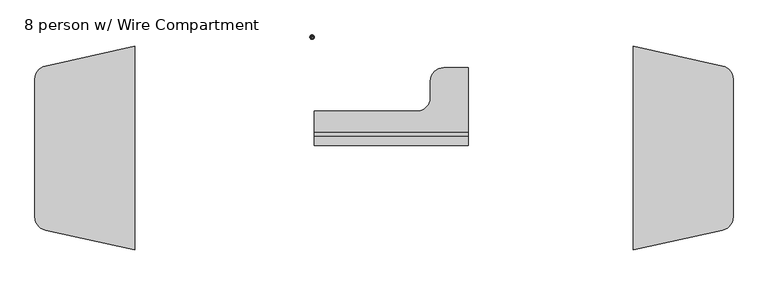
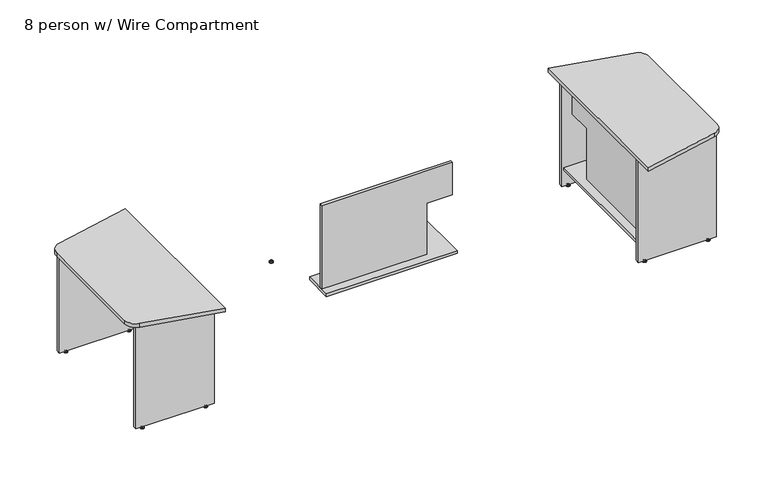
"""IFC4 building model written with IfcOpenShell, lengths in millimetres: furniture geometry, Nova Solutions - Collaboration Table - Boat_6-8 person : 8 person w/ Wire Compartment."""

from ifc_helpers import new_model, si_unit, point, frame, frame_2d, origin, place, context, project, spatial, polyline, circle_curve, ellipse_curve, trimmed, segment, composite_curve, outline, extrude, source, transform, mapped, element, save
from ifc_brep_helpers import plane_surface, cylinder_surface, revolved_surface, advanced_brep


def furniture_8_person_w_wire_compartment_c8a4825b(model_context):
    return source(origin(), model_context, "Body", "SolidModel", [
        advanced_brep(
        [(-2383.9628323, 449.6276506, 11.1125), (-2383.9628323, 442.95, 11.1125), (-2383.9628323, 436.2723494, 11.1125), (-2383.9628323, 449.6276506, 9.525), (-2383.9628323, 436.2723494, 9.525), (-2383.9628323, 454.8355135, 4.7748687), (-2383.9628323, 431.0644865, 4.7748687), (-2383.9628323, 455.6966506, 3.989419), (-2383.9628323, 430.2033494, 3.989419), (-2383.9628323, 455.6966506, 3.175), (-2383.9628323, 430.2033494, 3.175), (-2383.9628323, 454.8459119, 0.0), (-2383.9628323, 431.0540881, 0.0), (-2383.9628323, 442.95, 0.0)],
        [
            (0, 1),
            (1, 2),
            (2, 0, circle_curve(frame((-2383.9628323, 442.95, 11.1125), z_axis=(0.0, 0.0, 1.0), x_axis=(0.0, -1.0, 0.0)), 6.6776506)),
            (0, 2, circle_curve(frame((-2383.9628323, 442.95, 11.1125), z_axis=(0.0, 0.0, 1.0), x_axis=(0.0, -1.0, 0.0)), 6.6776506)),
            (3, 0),
            (2, 4),
            (4, 3, circle_curve(frame((-2383.9628323, 442.95, 9.525), z_axis=(0.0, 0.0, 1.0), x_axis=(0.0, -1.0, 0.0)), 6.6776506)),
            (3, 4, circle_curve(frame((-2383.9628323, 442.95, 9.525), z_axis=(0.0, 0.0, 1.0), x_axis=(0.0, -1.0, 0.0)), 6.6776506)),
            (5, 3, circle_curve(frame((-2383.9628323, 455.8820627, 11.1521822), z_axis=(-1.0, 0.0, 0.0), x_axis=(0.0, -1.0, 0.0)), 6.462615)),
            (4, 6, circle_curve(frame((-2383.9628323, 430.0179373, 11.1521822), z_axis=(-1.0, 0.0, 0.0), x_axis=(0.0, 1.0, 0.0)), 6.462615)),
            (6, 5, circle_curve(frame((-2383.9628323, 442.95, 4.7748687), z_axis=(0.0, 0.0, 1.0), x_axis=(0.0, -1.0, 0.0)), 11.8855135)),
            (5, 6, circle_curve(frame((-2383.9628323, 442.95, 4.7748687), z_axis=(0.0, 0.0, 1.0), x_axis=(0.0, -1.0, 0.0)), 11.8855135)),
            (7, 5, circle_curve(frame((-2383.9628323, 454.6624632, 3.7203591), z_axis=(1.0, 0.0, 0.0), x_axis=(0.0, -1.0, 0.0)), 1.0686145)),
            (6, 8, circle_curve(frame((-2383.9628323, 431.2375368, 3.7203591), z_axis=(1.0, 0.0, 0.0), x_axis=(0.0, 1.0, 0.0)), 1.0686145)),
            (8, 7, circle_curve(frame((-2383.9628323, 442.95, 3.989419), z_axis=(0.0, 0.0, 1.0), x_axis=(0.0, -1.0, 0.0)), 12.7466506)),
            (7, 8, circle_curve(frame((-2383.9628323, 442.95, 3.989419), z_axis=(0.0, 0.0, 1.0), x_axis=(0.0, -1.0, 0.0)), 12.7466506)),
            (9, 7),
            (8, 10),
            (10, 9, circle_curve(frame((-2383.9628323, 442.95, 3.175), z_axis=(0.0, 0.0, 1.0), x_axis=(0.0, -1.0, 0.0)), 12.7466506)),
            (9, 10, circle_curve(frame((-2383.9628323, 442.95, 3.175), z_axis=(0.0, 0.0, 1.0), x_axis=(0.0, -1.0, 0.0)), 12.7466506)),
            (11, 9),
            (10, 12),
            (12, 11, circle_curve(frame((-2383.9628323, 442.95, 0.0), z_axis=(0.0, 0.0, 1.0), x_axis=(0.0, -1.0, 0.0)), 11.8959119)),
            (11, 12, circle_curve(frame((-2383.9628323, 442.95, 0.0), z_axis=(0.0, 0.0, 1.0), x_axis=(0.0, -1.0, 0.0)), 11.8959119)),
            (13, 11),
            (12, 13),
        ],
        [
            plane_surface(frame((-2383.9628323, 442.95, 11.1125), z_axis=(0.0, 0.0, 1.0), x_axis=(0.0, -1.0, 0.0))),
            cylinder_surface(frame((-2383.9628323, 442.95, 43.2095994), z_axis=(0.0, 0.0, -1.0), x_axis=(0.0, -1.0, 0.0)), 6.6776506),
            revolved_surface(trimmed(ellipse_curve(frame((-2383.9628323, 430.0179373, 11.1521822), z_axis=(-1.0, 0.0, 0.0), x_axis=(0.0, 1.0, 0.0)), 6.462615, 6.462615), [point((-2383.9628323, 436.2723494, 9.525))], [point((-2383.9628323, 431.0644865, 4.7748687))], True, "CARTESIAN"), (-2383.9628323, 442.95, 43.2095994), (0.0, 0.0, -1.0)),
            revolved_surface(trimmed(ellipse_curve(frame((-2383.9628323, 431.2375368, 3.7203591), z_axis=(1.0, 0.0, 0.0), x_axis=(0.0, 1.0, 0.0)), 1.0686145, 1.0686145), [point((-2383.9628323, 431.0644865, 4.7748687))], [point((-2383.9628323, 430.2033494, 3.989419))], True, "CARTESIAN"), (-2383.9628323, 442.95, 43.2095994), (0.0, 0.0, -1.0)),
            cylinder_surface(frame((-2383.9628323, 442.95, 43.2095994), z_axis=(0.0, 0.0, -1.0), x_axis=(0.0, -1.0, 0.0)), 12.7466506),
            revolved_surface(polyline([(-2383.9628323, 430.2033494, 3.175), (-2383.9628323, 431.0540881, 0.0)]), (-2383.9628323, 442.95, 43.2095994), (0.0, 0.0, -1.0)),
            plane_surface(frame((-2383.9628323, 442.95, 0.0), z_axis=(0.0, 0.0, -1.0), x_axis=(0.0, -1.0, 0.0))),
        ],
        [
            (0, [[1, 2, 3]]),
            (0, [[-2, -1, 4]]),
            (1, [[5, -3, 6, 7]]),
            (1, [[-6, -4, -5, 8]]),
            (2, [[9, -7, 10, 11]]),
            (2, [[-10, -8, -9, 12]]),
            (3, [[13, -11, 14, 15]]),
            (3, [[-14, -12, -13, 16]]),
            (4, [[17, -15, 18, 19]]),
            (4, [[-18, -16, -17, 20]]),
            (5, [[21, -19, 22, 23]]),
            (5, [[-22, -20, -21, 24]]),
            (6, [[25, -23, 26]]),
            (6, [[-26, -24, -25]]),
        ],
    ),
        advanced_brep(
        [(-1959.6909573, 449.6276506, 11.1125), (-1959.6909573, 442.95, 11.1125), (-1959.6909573, 436.2723494, 11.1125), (-1959.6909573, 449.6276506, 9.525), (-1959.6909573, 436.2723494, 9.525), (-1959.6909573, 454.8355135, 4.7748687), (-1959.6909573, 431.0644865, 4.7748687), (-1959.6909573, 455.6966506, 3.989419), (-1959.6909573, 430.2033494, 3.989419), (-1959.6909573, 455.6966506, 3.175), (-1959.6909573, 430.2033494, 3.175), (-1959.6909573, 454.8459119, 0.0), (-1959.6909573, 431.0540881, 0.0), (-1959.6909573, 442.95, 0.0)],
        [
            (0, 1),
            (1, 2),
            (2, 0, circle_curve(frame((-1959.6909573, 442.95, 11.1125), z_axis=(0.0, 0.0, 1.0), x_axis=(0.0, -1.0, 0.0)), 6.6776506)),
            (0, 2, circle_curve(frame((-1959.6909573, 442.95, 11.1125), z_axis=(0.0, 0.0, 1.0), x_axis=(0.0, -1.0, 0.0)), 6.6776506)),
            (3, 0),
            (2, 4),
            (4, 3, circle_curve(frame((-1959.6909573, 442.95, 9.525), z_axis=(0.0, 0.0, 1.0), x_axis=(0.0, -1.0, 0.0)), 6.6776506)),
            (3, 4, circle_curve(frame((-1959.6909573, 442.95, 9.525), z_axis=(0.0, 0.0, 1.0), x_axis=(0.0, -1.0, 0.0)), 6.6776506)),
            (5, 3, circle_curve(frame((-1959.6909573, 455.8820627, 11.1521822), z_axis=(-1.0, 0.0, 0.0), x_axis=(0.0, -1.0, 0.0)), 6.462615)),
            (4, 6, circle_curve(frame((-1959.6909573, 430.0179373, 11.1521822), z_axis=(-1.0, 0.0, 0.0), x_axis=(0.0, 1.0, 0.0)), 6.462615)),
            (6, 5, circle_curve(frame((-1959.6909573, 442.95, 4.7748687), z_axis=(0.0, 0.0, 1.0), x_axis=(0.0, -1.0, 0.0)), 11.8855135)),
            (5, 6, circle_curve(frame((-1959.6909573, 442.95, 4.7748687), z_axis=(0.0, 0.0, 1.0), x_axis=(0.0, -1.0, 0.0)), 11.8855135)),
            (7, 5, circle_curve(frame((-1959.6909573, 454.6624632, 3.7203591), z_axis=(1.0, 0.0, 0.0), x_axis=(0.0, -1.0, 0.0)), 1.0686145)),
            (6, 8, circle_curve(frame((-1959.6909573, 431.2375368, 3.7203591), z_axis=(1.0, 0.0, 0.0), x_axis=(0.0, 1.0, 0.0)), 1.0686145)),
            (8, 7, circle_curve(frame((-1959.6909573, 442.95, 3.989419), z_axis=(0.0, 0.0, 1.0), x_axis=(0.0, -1.0, 0.0)), 12.7466506)),
            (7, 8, circle_curve(frame((-1959.6909573, 442.95, 3.989419), z_axis=(0.0, 0.0, 1.0), x_axis=(0.0, -1.0, 0.0)), 12.7466506)),
            (9, 7),
            (8, 10),
            (10, 9, circle_curve(frame((-1959.6909573, 442.95, 3.175), z_axis=(0.0, 0.0, 1.0), x_axis=(0.0, -1.0, 0.0)), 12.7466506)),
            (9, 10, circle_curve(frame((-1959.6909573, 442.95, 3.175), z_axis=(0.0, 0.0, 1.0), x_axis=(0.0, -1.0, 0.0)), 12.7466506)),
            (11, 9),
            (10, 12),
            (12, 11, circle_curve(frame((-1959.6909573, 442.95, 0.0), z_axis=(0.0, 0.0, 1.0), x_axis=(0.0, -1.0, 0.0)), 11.8959119)),
            (11, 12, circle_curve(frame((-1959.6909573, 442.95, 0.0), z_axis=(0.0, 0.0, 1.0), x_axis=(0.0, -1.0, 0.0)), 11.8959119)),
            (13, 11),
            (12, 13),
        ],
        [
            plane_surface(frame((-1959.6909573, 442.95, 11.1125), z_axis=(0.0, 0.0, 1.0), x_axis=(0.0, -1.0, 0.0))),
            cylinder_surface(frame((-1959.6909573, 442.95, 43.2095994), z_axis=(0.0, 0.0, -1.0), x_axis=(0.0, -1.0, 0.0)), 6.6776506),
            revolved_surface(trimmed(ellipse_curve(frame((-1959.6909573, 430.0179373, 11.1521822), z_axis=(-1.0, 0.0, 0.0), x_axis=(0.0, 1.0, 0.0)), 6.462615, 6.462615), [point((-1959.6909573, 436.2723494, 9.525))], [point((-1959.6909573, 431.0644865, 4.7748687))], True, "CARTESIAN"), (-1959.6909573, 442.95, 43.2095994), (0.0, 0.0, -1.0)),
            revolved_surface(trimmed(ellipse_curve(frame((-1959.6909573, 431.2375368, 3.7203591), z_axis=(1.0, 0.0, 0.0), x_axis=(0.0, 1.0, 0.0)), 1.0686145, 1.0686145), [point((-1959.6909573, 431.0644865, 4.7748687))], [point((-1959.6909573, 430.2033494, 3.989419))], True, "CARTESIAN"), (-1959.6909573, 442.95, 43.2095994), (0.0, 0.0, -1.0)),
            cylinder_surface(frame((-1959.6909573, 442.95, 43.2095994), z_axis=(0.0, 0.0, -1.0), x_axis=(0.0, -1.0, 0.0)), 12.7466506),
            revolved_surface(polyline([(-1959.6909573, 430.2033494, 3.175), (-1959.6909573, 431.0540881, 0.0)]), (-1959.6909573, 442.95, 43.2095994), (0.0, 0.0, -1.0)),
            plane_surface(frame((-1959.6909573, 442.95, 0.0), z_axis=(0.0, 0.0, -1.0), x_axis=(0.0, -1.0, 0.0))),
        ],
        [
            (0, [[1, 2, 3]]),
            (0, [[-2, -1, 4]]),
            (1, [[5, -3, 6, 7]]),
            (1, [[-6, -4, -5, 8]]),
            (2, [[9, -7, 10, 11]]),
            (2, [[-10, -8, -9, 12]]),
            (3, [[13, -11, 14, 15]]),
            (3, [[-14, -12, -13, 16]]),
            (4, [[17, -15, 18, 19]]),
            (4, [[-18, -16, -17, 20]]),
            (5, [[21, -19, 22, 23]]),
            (5, [[-22, -20, -21, 24]]),
            (6, [[25, -23, 26]]),
            (6, [[-26, -24, -25]]),
        ],
    ),
        extrude(outline(polyline([(-1910.6768948, 455.8), (-1910.6768948, 430.1), (-2432.9768948, 430.1), (-2432.9768948, 455.8), (-1910.6768948, 455.8)])), frame((0.0, 0.0, 15.6), z_axis=(0.0, 0.0, 1.0), x_axis=(1.0, 0.0, 0.0)), (0.0, 0.0, 1.0), 720.7),
        advanced_brep(
        [(-2383.9628323, -449.6276506, 11.1125), (-2383.9628323, -436.2723494, 11.1125), (-2383.9628323, -442.95, 11.1125), (-2383.9628323, -449.6276506, 9.525), (-2383.9628323, -436.2723494, 9.525), (-2383.9628323, -454.8355135, 4.7748687), (-2383.9628323, -431.0644865, 4.7748687), (-2383.9628323, -455.6966506, 3.989419), (-2383.9628323, -430.2033494, 3.989419), (-2383.9628323, -455.6966506, 3.175), (-2383.9628323, -430.2033494, 3.175), (-2383.9628323, -454.8459119, 0.0), (-2383.9628323, -431.0540881, 0.0), (-2383.9628323, -442.95, 0.0)],
        [
            (0, 1, circle_curve(frame((-2383.9628323, -442.95, 11.1125), z_axis=(0.0, 0.0, 1.0), x_axis=(0.0, 1.0, 0.0)), 6.6776506)),
            (1, 2),
            (2, 0),
            (1, 0, circle_curve(frame((-2383.9628323, -442.95, 11.1125), z_axis=(0.0, 0.0, 1.0), x_axis=(0.0, 1.0, 0.0)), 6.6776506)),
            (3, 4, circle_curve(frame((-2383.9628323, -442.95, 9.525), z_axis=(0.0, 0.0, 1.0), x_axis=(0.0, 1.0, 0.0)), 6.6776506)),
            (4, 1),
            (0, 3),
            (4, 3, circle_curve(frame((-2383.9628323, -442.95, 9.525), z_axis=(0.0, 0.0, 1.0), x_axis=(0.0, 1.0, 0.0)), 6.6776506)),
            (5, 6, circle_curve(frame((-2383.9628323, -442.95, 4.7748687), z_axis=(0.0, 0.0, 1.0), x_axis=(0.0, 1.0, 0.0)), 11.8855135)),
            (6, 4, circle_curve(frame((-2383.9628323, -430.0179373, 11.1521822), z_axis=(-1.0, 0.0, 0.0), x_axis=(0.0, -1.0, 0.0)), 6.462615)),
            (3, 5, circle_curve(frame((-2383.9628323, -455.8820627, 11.1521822), z_axis=(-1.0, 0.0, 0.0), x_axis=(0.0, 1.0, 0.0)), 6.462615)),
            (6, 5, circle_curve(frame((-2383.9628323, -442.95, 4.7748687), z_axis=(0.0, 0.0, 1.0), x_axis=(0.0, 1.0, 0.0)), 11.8855135)),
            (7, 8, circle_curve(frame((-2383.9628323, -442.95, 3.989419), z_axis=(0.0, 0.0, 1.0), x_axis=(0.0, 1.0, 0.0)), 12.7466506)),
            (8, 6, circle_curve(frame((-2383.9628323, -431.2375368, 3.7203591), z_axis=(1.0, 0.0, 0.0), x_axis=(0.0, -1.0, 0.0)), 1.0686145)),
            (5, 7, circle_curve(frame((-2383.9628323, -454.6624632, 3.7203591), z_axis=(1.0, 0.0, 0.0), x_axis=(0.0, 1.0, 0.0)), 1.0686145)),
            (8, 7, circle_curve(frame((-2383.9628323, -442.95, 3.989419), z_axis=(0.0, 0.0, 1.0), x_axis=(0.0, 1.0, 0.0)), 12.7466506)),
            (9, 10, circle_curve(frame((-2383.9628323, -442.95, 3.175), z_axis=(0.0, 0.0, 1.0), x_axis=(0.0, 1.0, 0.0)), 12.7466506)),
            (10, 8),
            (7, 9),
            (10, 9, circle_curve(frame((-2383.9628323, -442.95, 3.175), z_axis=(0.0, 0.0, 1.0), x_axis=(0.0, 1.0, 0.0)), 12.7466506)),
            (11, 12, circle_curve(frame((-2383.9628323, -442.95, 0.0), z_axis=(0.0, 0.0, 1.0), x_axis=(0.0, 1.0, 0.0)), 11.8959119)),
            (12, 10),
            (9, 11),
            (12, 11, circle_curve(frame((-2383.9628323, -442.95, 0.0), z_axis=(0.0, 0.0, 1.0), x_axis=(0.0, 1.0, 0.0)), 11.8959119)),
            (13, 12),
            (11, 13),
        ],
        [
            plane_surface(frame((-2383.9628323, -442.95, 11.1125), z_axis=(0.0, 0.0, 1.0), x_axis=(0.0, 1.0, 0.0))),
            cylinder_surface(frame((-2383.9628323, -442.95, 43.2095994), z_axis=(0.0, 0.0, -1.0), x_axis=(0.0, 1.0, 0.0)), 6.6776506),
            revolved_surface(trimmed(ellipse_curve(frame((-2383.9628323, -430.0179373, 11.1521822), z_axis=(1.0, 0.0, 0.0), x_axis=(0.0, -1.0, 0.0)), 6.462615, 6.462615), [point((-2383.9628323, -436.2723494, 9.525))], [point((-2383.9628323, -431.0644865, 4.7748687))], True, "CARTESIAN"), (-2383.9628323, -442.95, 43.2095994), (0.0, 0.0, -1.0)),
            revolved_surface(trimmed(ellipse_curve(frame((-2383.9628323, -431.2375368, 3.7203591), z_axis=(-1.0, 0.0, 0.0), x_axis=(0.0, -1.0, 0.0)), 1.0686145, 1.0686145), [point((-2383.9628323, -431.0644865, 4.7748687))], [point((-2383.9628323, -430.2033494, 3.989419))], True, "CARTESIAN"), (-2383.9628323, -442.95, 43.2095994), (0.0, 0.0, -1.0)),
            cylinder_surface(frame((-2383.9628323, -442.95, 43.2095994), z_axis=(0.0, 0.0, -1.0), x_axis=(0.0, 1.0, 0.0)), 12.7466506),
            revolved_surface(polyline([(-2383.9628323, -430.2033494, 3.175), (-2383.9628323, -431.0540881, 0.0)]), (-2383.9628323, -442.95, 43.2095994), (0.0, 0.0, -1.0)),
            plane_surface(frame((-2383.9628323, -442.95, 0.0), z_axis=(0.0, 0.0, -1.0), x_axis=(0.0, 1.0, 0.0))),
        ],
        [
            (0, [[1, 2, 3]]),
            (0, [[4, -3, -2]]),
            (1, [[5, 6, -1, 7]]),
            (1, [[8, -7, -4, -6]]),
            (2, [[9, 10, -5, 11]]),
            (2, [[12, -11, -8, -10]]),
            (3, [[13, 14, -9, 15]]),
            (3, [[16, -15, -12, -14]]),
            (4, [[17, 18, -13, 19]]),
            (4, [[20, -19, -16, -18]]),
            (5, [[21, 22, -17, 23]]),
            (5, [[24, -23, -20, -22]]),
            (6, [[25, -21, 26]]),
            (6, [[-26, -24, -25]]),
        ],
    ),
        advanced_brep(
        [(-1959.6909573, -449.6276506, 11.1125), (-1959.6909573, -436.2723494, 11.1125), (-1959.6909573, -442.95, 11.1125), (-1959.6909573, -449.6276506, 9.525), (-1959.6909573, -436.2723494, 9.525), (-1959.6909573, -454.8355135, 4.7748687), (-1959.6909573, -431.0644865, 4.7748687), (-1959.6909573, -455.6966506, 3.989419), (-1959.6909573, -430.2033494, 3.989419), (-1959.6909573, -455.6966506, 3.175), (-1959.6909573, -430.2033494, 3.175), (-1959.6909573, -454.8459119, 0.0), (-1959.6909573, -431.0540881, 0.0), (-1959.6909573, -442.95, 0.0)],
        [
            (0, 1, circle_curve(frame((-1959.6909573, -442.95, 11.1125), z_axis=(0.0, 0.0, 1.0), x_axis=(0.0, 1.0, 0.0)), 6.6776506)),
            (1, 2),
            (2, 0),
            (1, 0, circle_curve(frame((-1959.6909573, -442.95, 11.1125), z_axis=(0.0, 0.0, 1.0), x_axis=(0.0, 1.0, 0.0)), 6.6776506)),
            (3, 4, circle_curve(frame((-1959.6909573, -442.95, 9.525), z_axis=(0.0, 0.0, 1.0), x_axis=(0.0, 1.0, 0.0)), 6.6776506)),
            (4, 1),
            (0, 3),
            (4, 3, circle_curve(frame((-1959.6909573, -442.95, 9.525), z_axis=(0.0, 0.0, 1.0), x_axis=(0.0, 1.0, 0.0)), 6.6776506)),
            (5, 6, circle_curve(frame((-1959.6909573, -442.95, 4.7748687), z_axis=(0.0, 0.0, 1.0), x_axis=(0.0, 1.0, 0.0)), 11.8855135)),
            (6, 4, circle_curve(frame((-1959.6909573, -430.0179373, 11.1521822), z_axis=(-1.0, 0.0, 0.0), x_axis=(0.0, -1.0, 0.0)), 6.462615)),
            (3, 5, circle_curve(frame((-1959.6909573, -455.8820627, 11.1521822), z_axis=(-1.0, 0.0, 0.0), x_axis=(0.0, 1.0, 0.0)), 6.462615)),
            (6, 5, circle_curve(frame((-1959.6909573, -442.95, 4.7748687), z_axis=(0.0, 0.0, 1.0), x_axis=(0.0, 1.0, 0.0)), 11.8855135)),
            (7, 8, circle_curve(frame((-1959.6909573, -442.95, 3.989419), z_axis=(0.0, 0.0, 1.0), x_axis=(0.0, 1.0, 0.0)), 12.7466506)),
            (8, 6, circle_curve(frame((-1959.6909573, -431.2375368, 3.7203591), z_axis=(1.0, 0.0, 0.0), x_axis=(0.0, -1.0, 0.0)), 1.0686145)),
            (5, 7, circle_curve(frame((-1959.6909573, -454.6624632, 3.7203591), z_axis=(1.0, 0.0, 0.0), x_axis=(0.0, 1.0, 0.0)), 1.0686145)),
            (8, 7, circle_curve(frame((-1959.6909573, -442.95, 3.989419), z_axis=(0.0, 0.0, 1.0), x_axis=(0.0, 1.0, 0.0)), 12.7466506)),
            (9, 10, circle_curve(frame((-1959.6909573, -442.95, 3.175), z_axis=(0.0, 0.0, 1.0), x_axis=(0.0, 1.0, 0.0)), 12.7466506)),
            (10, 8),
            (7, 9),
            (10, 9, circle_curve(frame((-1959.6909573, -442.95, 3.175), z_axis=(0.0, 0.0, 1.0), x_axis=(0.0, 1.0, 0.0)), 12.7466506)),
            (11, 12, circle_curve(frame((-1959.6909573, -442.95, 0.0), z_axis=(0.0, 0.0, 1.0), x_axis=(0.0, 1.0, 0.0)), 11.8959119)),
            (12, 10),
            (9, 11),
            (12, 11, circle_curve(frame((-1959.6909573, -442.95, 0.0), z_axis=(0.0, 0.0, 1.0), x_axis=(0.0, 1.0, 0.0)), 11.8959119)),
            (13, 12),
            (11, 13),
        ],
        [
            plane_surface(frame((-1959.6909573, -442.95, 11.1125), z_axis=(0.0, 0.0, 1.0), x_axis=(0.0, 1.0, 0.0))),
            cylinder_surface(frame((-1959.6909573, -442.95, 43.2095994), z_axis=(0.0, 0.0, -1.0), x_axis=(0.0, 1.0, 0.0)), 6.6776506),
            revolved_surface(trimmed(ellipse_curve(frame((-1959.6909573, -430.0179373, 11.1521822), z_axis=(1.0, 0.0, 0.0), x_axis=(0.0, -1.0, 0.0)), 6.462615, 6.462615), [point((-1959.6909573, -436.2723494, 9.525))], [point((-1959.6909573, -431.0644865, 4.7748687))], True, "CARTESIAN"), (-1959.6909573, -442.95, 43.2095994), (0.0, 0.0, -1.0)),
            revolved_surface(trimmed(ellipse_curve(frame((-1959.6909573, -431.2375368, 3.7203591), z_axis=(-1.0, 0.0, 0.0), x_axis=(0.0, -1.0, 0.0)), 1.0686145, 1.0686145), [point((-1959.6909573, -431.0644865, 4.7748687))], [point((-1959.6909573, -430.2033494, 3.989419))], True, "CARTESIAN"), (-1959.6909573, -442.95, 43.2095994), (0.0, 0.0, -1.0)),
            cylinder_surface(frame((-1959.6909573, -442.95, 43.2095994), z_axis=(0.0, 0.0, -1.0), x_axis=(0.0, 1.0, 0.0)), 12.7466506),
            revolved_surface(polyline([(-1959.6909573, -430.2033494, 3.175), (-1959.6909573, -431.0540881, 0.0)]), (-1959.6909573, -442.95, 43.2095994), (0.0, 0.0, -1.0)),
            plane_surface(frame((-1959.6909573, -442.95, 0.0), z_axis=(0.0, 0.0, -1.0), x_axis=(0.0, 1.0, 0.0))),
        ],
        [
            (0, [[1, 2, 3]]),
            (0, [[4, -3, -2]]),
            (1, [[5, 6, -1, 7]]),
            (1, [[8, -7, -4, -6]]),
            (2, [[9, 10, -5, 11]]),
            (2, [[12, -11, -8, -10]]),
            (3, [[13, 14, -9, 15]]),
            (3, [[16, -15, -12, -14]]),
            (4, [[17, 18, -13, 19]]),
            (4, [[20, -19, -16, -18]]),
            (5, [[21, 22, -17, 23]]),
            (5, [[24, -23, -20, -22]]),
            (6, [[25, -21, 26]]),
            (6, [[-26, -24, -25]]),
        ],
    ),
        extrude(outline(polyline([(-1910.6768948, -455.8), (-2432.9768948, -455.8), (-2432.9768948, -430.1), (-1910.6768948, -430.1), (-1910.6768948, -455.8)])), frame((0.0, 0.0, 15.6), z_axis=(0.0, 0.0, 1.0), x_axis=(1.0, 0.0, 0.0)), (0.0, 0.0, 1.0), 720.7),
        extrude(outline(composite_curve([segment(polyline([(-1907.7768948, 579.5), (-1907.7768948, -579.5), (-2413.4427451, -467.3965799)]), True, "CONTINUOUS"), segment(trimmed(circle_curve(frame_2d((-2396.7768948, -392.2217874)), 77.0), [point((-2413.4427451, -467.3965799))], [point((-2473.7768948, -392.2217874))], False, "CARTESIAN"), True, "CONTINUOUS"), segment(polyline([(-2473.7768948, -392.2217874), (-2473.7768948, 392.2217874)]), True, "CONTINUOUS"), segment(trimmed(circle_curve(frame_2d((-2396.7768948, 392.2217874)), 77.0), [point((-2473.7768948, 392.2217874))], [point((-2413.4427451, 467.3965799))], False, "CARTESIAN"), True, "CONTINUOUS"), segment(polyline([(-2413.4427451, 467.3965799), (-1907.7768948, 579.5)]), True, "CONTINUOUS")], self_intersect=False)), frame((0.0, 0.0, 736.3), z_axis=(0.0, 0.0, 1.0), x_axis=(1.0, 0.0, 0.0)), (0.0, 0.0, 1.0), 25.7),
        extrude(outline(polyline([(-430.1, 145.5), (-430.1, 736.3), (430.1, 736.3), (430.1, 507.4), (259.1, 507.4), (259.1, 145.5), (-430.1, 145.5)])), frame((995.2235048, 0.0, 0.0), z_axis=(1.0, 0.0, 0.0), x_axis=(0.0, 1.0, 0.0)), (0.0, 0.0, 1.0), 19.2),
        extrude(outline(composite_curve([segment(polyline([(939.9235048, -430.1), (939.9235048, 430.1), (1383.0860048, 430.1), (1383.0860048, 290.3)]), True, "CONTINUOUS"), segment(trimmed(circle_curve(frame_2d((1306.8860048, 290.3)), 76.2), [point((1383.0860048, 290.3))], [point((1306.8860048, 214.1))], False, "CARTESIAN"), True, "CONTINUOUS"), segment(polyline([(1306.8860048, 214.1), (1212.4235048, 214.1)]), True, "CONTINUOUS"), segment(trimmed(circle_curve(frame_2d((1212.4235048, 137.9)), 76.2), [point((1212.4235048, 214.1))], [point((1136.2235048, 137.9))], True, "CARTESIAN"), True, "CONTINUOUS"), segment(polyline([(1136.2235048, 137.9), (1136.2235048, -430.1), (939.9235048, -430.1)]), True, "CONTINUOUS")], self_intersect=False)), frame((0.0, 0.0, 126.3), z_axis=(0.0, 0.0, 1.0), x_axis=(1.0, 0.0, 0.0)), (0.0, 0.0, 1.0), 19.2),
        advanced_brep(
        [(1400.5094423, -449.6276506, 11.1125), (1400.5094423, -442.95, 11.1125), (1400.5094423, -436.2723494, 11.1125), (1400.5094423, -449.6276506, 9.525), (1400.5094423, -436.2723494, 9.525), (1400.5094423, -454.8355135, 4.7748687), (1400.5094423, -431.0644865, 4.7748687), (1400.5094423, -455.6966506, 3.989419), (1400.5094423, -430.2033494, 3.989419), (1400.5094423, -455.6966506, 3.175), (1400.5094423, -430.2033494, 3.175), (1400.5094423, -454.845912, 0.0), (1400.5094423, -431.0540881, 0.0), (1400.5094423, -442.95, 0.0)],
        [
            (0, 1),
            (1, 2),
            (2, 0, circle_curve(frame((1400.5094423, -442.95, 11.1125), z_axis=(0.0, 0.0, 1.0), x_axis=(0.0, 1.0, 0.0)), 6.6776506)),
            (0, 2, circle_curve(frame((1400.5094423, -442.95, 11.1125), z_axis=(0.0, 0.0, 1.0), x_axis=(0.0, 1.0, 0.0)), 6.6776506)),
            (3, 0),
            (2, 4),
            (4, 3, circle_curve(frame((1400.5094423, -442.95, 9.525), z_axis=(0.0, 0.0, 1.0), x_axis=(0.0, 1.0, 0.0)), 6.6776506)),
            (3, 4, circle_curve(frame((1400.5094423, -442.95, 9.525), z_axis=(0.0, 0.0, 1.0), x_axis=(0.0, 1.0, 0.0)), 6.6776506)),
            (5, 3, circle_curve(frame((1400.5094423, -455.8820627, 11.1521822), z_axis=(1.0, 0.0, 0.0), x_axis=(0.0, 1.0, 0.0)), 6.462615)),
            (4, 6, circle_curve(frame((1400.5094423, -430.0179373, 11.1521822), z_axis=(1.0, 0.0, 0.0), x_axis=(0.0, -1.0, 0.0)), 6.462615)),
            (6, 5, circle_curve(frame((1400.5094423, -442.95, 4.7748687), z_axis=(0.0, 0.0, 1.0), x_axis=(0.0, 1.0, 0.0)), 11.8855135)),
            (5, 6, circle_curve(frame((1400.5094423, -442.95, 4.7748687), z_axis=(0.0, 0.0, 1.0), x_axis=(0.0, 1.0, 0.0)), 11.8855135)),
            (7, 5, circle_curve(frame((1400.5094423, -454.6624632, 3.7203591), z_axis=(-1.0, 0.0, 0.0), x_axis=(0.0, 1.0, 0.0)), 1.0686145)),
            (6, 8, circle_curve(frame((1400.5094423, -431.2375368, 3.7203591), z_axis=(-1.0, 0.0, 0.0), x_axis=(0.0, -1.0, 0.0)), 1.0686145)),
            (8, 7, circle_curve(frame((1400.5094423, -442.95, 3.989419), z_axis=(0.0, 0.0, 1.0), x_axis=(0.0, 1.0, 0.0)), 12.7466506)),
            (7, 8, circle_curve(frame((1400.5094423, -442.95, 3.989419), z_axis=(0.0, 0.0, 1.0), x_axis=(0.0, 1.0, 0.0)), 12.7466506)),
            (9, 7),
            (8, 10),
            (10, 9, circle_curve(frame((1400.5094423, -442.95, 3.175), z_axis=(0.0, 0.0, 1.0), x_axis=(0.0, 1.0, 0.0)), 12.7466506)),
            (9, 10, circle_curve(frame((1400.5094423, -442.95, 3.175), z_axis=(0.0, 0.0, 1.0), x_axis=(0.0, 1.0, 0.0)), 12.7466506)),
            (11, 9),
            (10, 12),
            (12, 11, circle_curve(frame((1400.5094423, -442.95, 0.0), z_axis=(0.0, 0.0, 1.0), x_axis=(0.0, 1.0, 0.0)), 11.8959119)),
            (11, 12, circle_curve(frame((1400.5094423, -442.95, 0.0), z_axis=(0.0, 0.0, 1.0), x_axis=(0.0, 1.0, 0.0)), 11.8959119)),
            (13, 11),
            (12, 13),
        ],
        [
            plane_surface(frame((1400.5094423, -442.95, 11.1125), z_axis=(0.0, 0.0, 1.0), x_axis=(0.0, 1.0, 0.0))),
            cylinder_surface(frame((1400.5094423, -442.95, 43.2095994), z_axis=(0.0, 0.0, -1.0), x_axis=(0.0, 1.0, 0.0)), 6.6776506),
            revolved_surface(trimmed(ellipse_curve(frame((1400.5094423, -430.0179373, 11.1521822), z_axis=(1.0, 0.0, 0.0), x_axis=(0.0, -1.0, 0.0)), 6.462615, 6.462615), [point((1400.5094423, -436.2723494, 9.525))], [point((1400.5094423, -431.0644865, 4.7748687))], True, "CARTESIAN"), (1400.5094423, -442.95, 43.2095994), (0.0, 0.0, -1.0)),
            revolved_surface(trimmed(ellipse_curve(frame((1400.5094423, -431.2375368, 3.7203591), z_axis=(-1.0, 0.0, 0.0), x_axis=(0.0, -1.0, 0.0)), 1.0686145, 1.0686145), [point((1400.5094423, -431.0644865, 4.7748687))], [point((1400.5094423, -430.2033494, 3.989419))], True, "CARTESIAN"), (1400.5094423, -442.95, 43.2095994), (0.0, 0.0, -1.0)),
            cylinder_surface(frame((1400.5094423, -442.95, 43.2095994), z_axis=(0.0, 0.0, -1.0), x_axis=(0.0, 1.0, 0.0)), 12.7466506),
            revolved_surface(polyline([(1400.5094423, -430.2033494, 3.175), (1400.5094423, -431.0540881, 0.0)]), (1400.5094423, -442.95, 43.2095994), (0.0, 0.0, -1.0)),
            plane_surface(frame((1400.5094423, -442.95, 0.0), z_axis=(0.0, 0.0, -1.0), x_axis=(0.0, 1.0, 0.0))),
        ],
        [
            (0, [[1, 2, 3]]),
            (0, [[-2, -1, 4]]),
            (1, [[5, -3, 6, 7]]),
            (1, [[-6, -4, -5, 8]]),
            (2, [[9, -7, 10, 11]]),
            (2, [[-10, -8, -9, 12]]),
            (3, [[13, -11, 14, 15]]),
            (3, [[-14, -12, -13, 16]]),
            (4, [[17, -15, 18, 19]]),
            (4, [[-18, -16, -17, 20]]),
            (5, [[21, -19, 22, 23]]),
            (5, [[-22, -20, -21, 24]]),
            (6, [[25, -23, 26]]),
            (6, [[-26, -24, -25]]),
        ],
    ),
        advanced_brep(
        [(976.2375673, -449.6276506, 11.1125), (976.2375673, -442.95, 11.1125), (976.2375673, -436.2723494, 11.1125), (976.2375673, -449.6276506, 9.525), (976.2375673, -436.2723494, 9.525), (976.2375673, -454.8355135, 4.7748687), (976.2375673, -431.0644865, 4.7748687), (976.2375673, -455.6966506, 3.989419), (976.2375673, -430.2033494, 3.989419), (976.2375673, -455.6966506, 3.175), (976.2375673, -430.2033494, 3.175), (976.2375673, -454.845912, 0.0), (976.2375673, -431.0540881, 0.0), (976.2375673, -442.95, 0.0)],
        [
            (0, 1),
            (1, 2),
            (2, 0, circle_curve(frame((976.2375673, -442.95, 11.1125), z_axis=(0.0, 0.0, 1.0), x_axis=(0.0, 1.0, 0.0)), 6.6776506)),
            (0, 2, circle_curve(frame((976.2375673, -442.95, 11.1125), z_axis=(0.0, 0.0, 1.0), x_axis=(0.0, 1.0, 0.0)), 6.6776506)),
            (3, 0),
            (2, 4),
            (4, 3, circle_curve(frame((976.2375673, -442.95, 9.525), z_axis=(0.0, 0.0, 1.0), x_axis=(0.0, 1.0, 0.0)), 6.6776506)),
            (3, 4, circle_curve(frame((976.2375673, -442.95, 9.525), z_axis=(0.0, 0.0, 1.0), x_axis=(0.0, 1.0, 0.0)), 6.6776506)),
            (5, 3, circle_curve(frame((976.2375673, -455.8820627, 11.1521822), z_axis=(1.0, 0.0, 0.0), x_axis=(0.0, 1.0, 0.0)), 6.462615)),
            (4, 6, circle_curve(frame((976.2375673, -430.0179373, 11.1521822), z_axis=(1.0, 0.0, 0.0), x_axis=(0.0, -1.0, 0.0)), 6.462615)),
            (6, 5, circle_curve(frame((976.2375673, -442.95, 4.7748687), z_axis=(0.0, 0.0, 1.0), x_axis=(0.0, 1.0, 0.0)), 11.8855135)),
            (5, 6, circle_curve(frame((976.2375673, -442.95, 4.7748687), z_axis=(0.0, 0.0, 1.0), x_axis=(0.0, 1.0, 0.0)), 11.8855135)),
            (7, 5, circle_curve(frame((976.2375673, -454.6624632, 3.7203591), z_axis=(-1.0, 0.0, 0.0), x_axis=(0.0, 1.0, 0.0)), 1.0686145)),
            (6, 8, circle_curve(frame((976.2375673, -431.2375368, 3.7203591), z_axis=(-1.0, 0.0, 0.0), x_axis=(0.0, -1.0, 0.0)), 1.0686145)),
            (8, 7, circle_curve(frame((976.2375673, -442.95, 3.989419), z_axis=(0.0, 0.0, 1.0), x_axis=(0.0, 1.0, 0.0)), 12.7466506)),
            (7, 8, circle_curve(frame((976.2375673, -442.95, 3.989419), z_axis=(0.0, 0.0, 1.0), x_axis=(0.0, 1.0, 0.0)), 12.7466506)),
            (9, 7),
            (8, 10),
            (10, 9, circle_curve(frame((976.2375673, -442.95, 3.175), z_axis=(0.0, 0.0, 1.0), x_axis=(0.0, 1.0, 0.0)), 12.7466506)),
            (9, 10, circle_curve(frame((976.2375673, -442.95, 3.175), z_axis=(0.0, 0.0, 1.0), x_axis=(0.0, 1.0, 0.0)), 12.7466506)),
            (11, 9),
            (10, 12),
            (12, 11, circle_curve(frame((976.2375673, -442.95, 0.0), z_axis=(0.0, 0.0, 1.0), x_axis=(0.0, 1.0, 0.0)), 11.8959119)),
            (11, 12, circle_curve(frame((976.2375673, -442.95, 0.0), z_axis=(0.0, 0.0, 1.0), x_axis=(0.0, 1.0, 0.0)), 11.8959119)),
            (13, 11),
            (12, 13),
        ],
        [
            plane_surface(frame((976.2375673, -442.95, 11.1125), z_axis=(0.0, 0.0, 1.0), x_axis=(0.0, 1.0, 0.0))),
            cylinder_surface(frame((976.2375673, -442.95, 43.2095994), z_axis=(0.0, 0.0, -1.0), x_axis=(0.0, 1.0, 0.0)), 6.6776506),
            revolved_surface(trimmed(ellipse_curve(frame((976.2375673, -430.0179373, 11.1521822), z_axis=(1.0, 0.0, 0.0), x_axis=(0.0, -1.0, 0.0)), 6.462615, 6.462615), [point((976.2375673, -436.2723494, 9.525))], [point((976.2375673, -431.0644865, 4.7748687))], True, "CARTESIAN"), (976.2375673, -442.95, 43.2095994), (0.0, 0.0, -1.0)),
            revolved_surface(trimmed(ellipse_curve(frame((976.2375673, -431.2375368, 3.7203591), z_axis=(-1.0, 0.0, 0.0), x_axis=(0.0, -1.0, 0.0)), 1.0686145, 1.0686145), [point((976.2375673, -431.0644865, 4.7748687))], [point((976.2375673, -430.2033494, 3.989419))], True, "CARTESIAN"), (976.2375673, -442.95, 43.2095994), (0.0, 0.0, -1.0)),
            cylinder_surface(frame((976.2375673, -442.95, 43.2095994), z_axis=(0.0, 0.0, -1.0), x_axis=(0.0, 1.0, 0.0)), 12.7466506),
            revolved_surface(polyline([(976.2375673, -430.2033494, 3.175), (976.2375673, -431.0540881, 0.0)]), (976.2375673, -442.95, 43.2095994), (0.0, 0.0, -1.0)),
            plane_surface(frame((976.2375673, -442.95, 0.0), z_axis=(0.0, 0.0, -1.0), x_axis=(0.0, 1.0, 0.0))),
        ],
        [
            (0, [[1, 2, 3]]),
            (0, [[-2, -1, 4]]),
            (1, [[5, -3, 6, 7]]),
            (1, [[-6, -4, -5, 8]]),
            (2, [[9, -7, 10, 11]]),
            (2, [[-10, -8, -9, 12]]),
            (3, [[13, -11, 14, 15]]),
            (3, [[-14, -12, -13, 16]]),
            (4, [[17, -15, 18, 19]]),
            (4, [[-18, -16, -17, 20]]),
            (5, [[21, -19, 22, 23]]),
            (5, [[-22, -20, -21, 24]]),
            (6, [[25, -23, 26]]),
            (6, [[-26, -24, -25]]),
        ],
    ),
        extrude(outline(polyline([(927.2235048, -455.8), (927.2235048, -430.1), (1449.5235048, -430.1), (1449.5235048, -455.8), (927.2235048, -455.8)])), frame((0.0, 0.0, 15.6), z_axis=(0.0, 0.0, 1.0), x_axis=(1.0, 0.0, 0.0)), (0.0, 0.0, 1.0), 720.7),
        advanced_brep(
        [(1400.5094423, 449.6276506, 11.1125), (1400.5094423, 436.2723494, 11.1125), (1400.5094423, 442.95, 11.1125), (1400.5094423, 449.6276506, 9.525), (1400.5094423, 436.2723494, 9.525), (1400.5094423, 454.8355135, 4.7748687), (1400.5094423, 431.0644865, 4.7748687), (1400.5094423, 455.6966506, 3.989419), (1400.5094423, 430.2033494, 3.989419), (1400.5094423, 455.6966506, 3.175), (1400.5094423, 430.2033494, 3.175), (1400.5094423, 454.8459119, 0.0), (1400.5094423, 431.054088, 0.0), (1400.5094423, 442.95, 0.0)],
        [
            (0, 1, circle_curve(frame((1400.5094423, 442.95, 11.1125), z_axis=(0.0, 0.0, 1.0), x_axis=(0.0, -1.0, 0.0)), 6.6776506)),
            (1, 2),
            (2, 0),
            (1, 0, circle_curve(frame((1400.5094423, 442.95, 11.1125), z_axis=(0.0, 0.0, 1.0), x_axis=(0.0, -1.0, 0.0)), 6.6776506)),
            (3, 4, circle_curve(frame((1400.5094423, 442.95, 9.525), z_axis=(0.0, 0.0, 1.0), x_axis=(0.0, -1.0, 0.0)), 6.6776506)),
            (4, 1),
            (0, 3),
            (4, 3, circle_curve(frame((1400.5094423, 442.95, 9.525), z_axis=(0.0, 0.0, 1.0), x_axis=(0.0, -1.0, 0.0)), 6.6776506)),
            (5, 6, circle_curve(frame((1400.5094423, 442.95, 4.7748687), z_axis=(0.0, 0.0, 1.0), x_axis=(0.0, -1.0, 0.0)), 11.8855135)),
            (6, 4, circle_curve(frame((1400.5094423, 430.0179373, 11.1521822), z_axis=(1.0, 0.0, 0.0), x_axis=(0.0, 1.0, 0.0)), 6.462615)),
            (3, 5, circle_curve(frame((1400.5094423, 455.8820627, 11.1521822), z_axis=(1.0, 0.0, 0.0), x_axis=(0.0, -1.0, 0.0)), 6.462615)),
            (6, 5, circle_curve(frame((1400.5094423, 442.95, 4.7748687), z_axis=(0.0, 0.0, 1.0), x_axis=(0.0, -1.0, 0.0)), 11.8855135)),
            (7, 8, circle_curve(frame((1400.5094423, 442.95, 3.989419), z_axis=(0.0, 0.0, 1.0), x_axis=(0.0, -1.0, 0.0)), 12.7466506)),
            (8, 6, circle_curve(frame((1400.5094423, 431.2375368, 3.7203591), z_axis=(-1.0, 0.0, 0.0), x_axis=(0.0, 1.0, 0.0)), 1.0686145)),
            (5, 7, circle_curve(frame((1400.5094423, 454.6624632, 3.7203591), z_axis=(-1.0, 0.0, 0.0), x_axis=(0.0, -1.0, 0.0)), 1.0686145)),
            (8, 7, circle_curve(frame((1400.5094423, 442.95, 3.989419), z_axis=(0.0, 0.0, 1.0), x_axis=(0.0, -1.0, 0.0)), 12.7466506)),
            (9, 10, circle_curve(frame((1400.5094423, 442.95, 3.175), z_axis=(0.0, 0.0, 1.0), x_axis=(0.0, -1.0, 0.0)), 12.7466506)),
            (10, 8),
            (7, 9),
            (10, 9, circle_curve(frame((1400.5094423, 442.95, 3.175), z_axis=(0.0, 0.0, 1.0), x_axis=(0.0, -1.0, 0.0)), 12.7466506)),
            (11, 12, circle_curve(frame((1400.5094423, 442.95, 0.0), z_axis=(0.0, 0.0, 1.0), x_axis=(0.0, -1.0, 0.0)), 11.8959119)),
            (12, 10),
            (9, 11),
            (12, 11, circle_curve(frame((1400.5094423, 442.95, 0.0), z_axis=(0.0, 0.0, 1.0), x_axis=(0.0, -1.0, 0.0)), 11.8959119)),
            (13, 12),
            (11, 13),
        ],
        [
            plane_surface(frame((1400.5094423, 442.95, 11.1125), z_axis=(0.0, 0.0, 1.0), x_axis=(0.0, -1.0, 0.0))),
            cylinder_surface(frame((1400.5094423, 442.95, 43.2095994), z_axis=(0.0, 0.0, -1.0), x_axis=(0.0, -1.0, 0.0)), 6.6776506),
            revolved_surface(trimmed(ellipse_curve(frame((1400.5094423, 430.0179373, 11.1521822), z_axis=(-1.0, 0.0, 0.0), x_axis=(0.0, 1.0, 0.0)), 6.462615, 6.462615), [point((1400.5094423, 436.2723494, 9.525))], [point((1400.5094423, 431.0644865, 4.7748687))], True, "CARTESIAN"), (1400.5094423, 442.95, 43.2095994), (0.0, 0.0, -1.0)),
            revolved_surface(trimmed(ellipse_curve(frame((1400.5094423, 431.2375368, 3.7203591), z_axis=(1.0, 0.0, 0.0), x_axis=(0.0, 1.0, 0.0)), 1.0686145, 1.0686145), [point((1400.5094423, 431.0644865, 4.7748687))], [point((1400.5094423, 430.2033494, 3.989419))], True, "CARTESIAN"), (1400.5094423, 442.95, 43.2095994), (0.0, 0.0, -1.0)),
            cylinder_surface(frame((1400.5094423, 442.95, 43.2095994), z_axis=(0.0, 0.0, -1.0), x_axis=(0.0, -1.0, 0.0)), 12.7466506),
            revolved_surface(polyline([(1400.5094423, 430.2033494, 3.175), (1400.5094423, 431.054088, 0.0)]), (1400.5094423, 442.95, 43.2095994), (0.0, 0.0, -1.0)),
            plane_surface(frame((1400.5094423, 442.95, 0.0), z_axis=(0.0, 0.0, -1.0), x_axis=(0.0, -1.0, 0.0))),
        ],
        [
            (0, [[1, 2, 3]]),
            (0, [[4, -3, -2]]),
            (1, [[5, 6, -1, 7]]),
            (1, [[8, -7, -4, -6]]),
            (2, [[9, 10, -5, 11]]),
            (2, [[12, -11, -8, -10]]),
            (3, [[13, 14, -9, 15]]),
            (3, [[16, -15, -12, -14]]),
            (4, [[17, 18, -13, 19]]),
            (4, [[20, -19, -16, -18]]),
            (5, [[21, 22, -17, 23]]),
            (5, [[24, -23, -20, -22]]),
            (6, [[25, -21, 26]]),
            (6, [[-26, -24, -25]]),
        ],
    ),
        advanced_brep(
        [(976.2375673, 449.6276506, 11.1125), (976.2375673, 436.2723494, 11.1125), (976.2375673, 442.95, 11.1125), (976.2375673, 449.6276506, 9.525), (976.2375673, 436.2723494, 9.525), (976.2375673, 454.8355135, 4.7748687), (976.2375673, 431.0644865, 4.7748687), (976.2375673, 455.6966506, 3.989419), (976.2375673, 430.2033494, 3.989419), (976.2375673, 455.6966506, 3.175), (976.2375673, 430.2033494, 3.175), (976.2375673, 454.8459119, 0.0), (976.2375673, 431.054088, 0.0), (976.2375673, 442.95, 0.0)],
        [
            (0, 1, circle_curve(frame((976.2375673, 442.95, 11.1125), z_axis=(0.0, 0.0, 1.0), x_axis=(0.0, -1.0, 0.0)), 6.6776506)),
            (1, 2),
            (2, 0),
            (1, 0, circle_curve(frame((976.2375673, 442.95, 11.1125), z_axis=(0.0, 0.0, 1.0), x_axis=(0.0, -1.0, 0.0)), 6.6776506)),
            (3, 4, circle_curve(frame((976.2375673, 442.95, 9.525), z_axis=(0.0, 0.0, 1.0), x_axis=(0.0, -1.0, 0.0)), 6.6776506)),
            (4, 1),
            (0, 3),
            (4, 3, circle_curve(frame((976.2375673, 442.95, 9.525), z_axis=(0.0, 0.0, 1.0), x_axis=(0.0, -1.0, 0.0)), 6.6776506)),
            (5, 6, circle_curve(frame((976.2375673, 442.95, 4.7748687), z_axis=(0.0, 0.0, 1.0), x_axis=(0.0, -1.0, 0.0)), 11.8855135)),
            (6, 4, circle_curve(frame((976.2375673, 430.0179373, 11.1521822), z_axis=(1.0, 0.0, 0.0), x_axis=(0.0, 1.0, 0.0)), 6.462615)),
            (3, 5, circle_curve(frame((976.2375673, 455.8820627, 11.1521822), z_axis=(1.0, 0.0, 0.0), x_axis=(0.0, -1.0, 0.0)), 6.462615)),
            (6, 5, circle_curve(frame((976.2375673, 442.95, 4.7748687), z_axis=(0.0, 0.0, 1.0), x_axis=(0.0, -1.0, 0.0)), 11.8855135)),
            (7, 8, circle_curve(frame((976.2375673, 442.95, 3.989419), z_axis=(0.0, 0.0, 1.0), x_axis=(0.0, -1.0, 0.0)), 12.7466506)),
            (8, 6, circle_curve(frame((976.2375673, 431.2375368, 3.7203591), z_axis=(-1.0, 0.0, 0.0), x_axis=(0.0, 1.0, 0.0)), 1.0686145)),
            (5, 7, circle_curve(frame((976.2375673, 454.6624632, 3.7203591), z_axis=(-1.0, 0.0, 0.0), x_axis=(0.0, -1.0, 0.0)), 1.0686145)),
            (8, 7, circle_curve(frame((976.2375673, 442.95, 3.989419), z_axis=(0.0, 0.0, 1.0), x_axis=(0.0, -1.0, 0.0)), 12.7466506)),
            (9, 10, circle_curve(frame((976.2375673, 442.95, 3.175), z_axis=(0.0, 0.0, 1.0), x_axis=(0.0, -1.0, 0.0)), 12.7466506)),
            (10, 8),
            (7, 9),
            (10, 9, circle_curve(frame((976.2375673, 442.95, 3.175), z_axis=(0.0, 0.0, 1.0), x_axis=(0.0, -1.0, 0.0)), 12.7466506)),
            (11, 12, circle_curve(frame((976.2375673, 442.95, 0.0), z_axis=(0.0, 0.0, 1.0), x_axis=(0.0, -1.0, 0.0)), 11.8959119)),
            (12, 10),
            (9, 11),
            (12, 11, circle_curve(frame((976.2375673, 442.95, 0.0), z_axis=(0.0, 0.0, 1.0), x_axis=(0.0, -1.0, 0.0)), 11.8959119)),
            (13, 12),
            (11, 13),
        ],
        [
            plane_surface(frame((976.2375673, 442.95, 11.1125), z_axis=(0.0, 0.0, 1.0), x_axis=(0.0, -1.0, 0.0))),
            cylinder_surface(frame((976.2375673, 442.95, 43.2095994), z_axis=(0.0, 0.0, -1.0), x_axis=(0.0, -1.0, 0.0)), 6.6776506),
            revolved_surface(trimmed(ellipse_curve(frame((976.2375673, 430.0179373, 11.1521822), z_axis=(-1.0, 0.0, 0.0), x_axis=(0.0, 1.0, 0.0)), 6.462615, 6.462615), [point((976.2375673, 436.2723494, 9.525))], [point((976.2375673, 431.0644865, 4.7748687))], True, "CARTESIAN"), (976.2375673, 442.95, 43.2095994), (0.0, 0.0, -1.0)),
            revolved_surface(trimmed(ellipse_curve(frame((976.2375673, 431.2375368, 3.7203591), z_axis=(1.0, 0.0, 0.0), x_axis=(0.0, 1.0, 0.0)), 1.0686145, 1.0686145), [point((976.2375673, 431.0644865, 4.7748687))], [point((976.2375673, 430.2033494, 3.989419))], True, "CARTESIAN"), (976.2375673, 442.95, 43.2095994), (0.0, 0.0, -1.0)),
            cylinder_surface(frame((976.2375673, 442.95, 43.2095994), z_axis=(0.0, 0.0, -1.0), x_axis=(0.0, -1.0, 0.0)), 12.7466506),
            revolved_surface(polyline([(976.2375673, 430.2033494, 3.175), (976.2375673, 431.054088, 0.0)]), (976.2375673, 442.95, 43.2095994), (0.0, 0.0, -1.0)),
            plane_surface(frame((976.2375673, 442.95, 0.0), z_axis=(0.0, 0.0, -1.0), x_axis=(0.0, -1.0, 0.0))),
        ],
        [
            (0, [[1, 2, 3]]),
            (0, [[4, -3, -2]]),
            (1, [[5, 6, -1, 7]]),
            (1, [[8, -7, -4, -6]]),
            (2, [[9, 10, -5, 11]]),
            (2, [[12, -11, -8, -10]]),
            (3, [[13, 14, -9, 15]]),
            (3, [[16, -15, -12, -14]]),
            (4, [[17, 18, -13, 19]]),
            (4, [[20, -19, -16, -18]]),
            (5, [[21, 22, -17, 23]]),
            (5, [[24, -23, -20, -22]]),
            (6, [[25, -21, 26]]),
            (6, [[-26, -24, -25]]),
        ],
    ),
        extrude(outline(polyline([(927.2235048, 455.8), (1449.5235048, 455.8), (1449.5235048, 430.1), (927.2235048, 430.1), (927.2235048, 455.8)])), frame((0.0, 0.0, 15.6), z_axis=(0.0, 0.0, 1.0), x_axis=(1.0, 0.0, 0.0)), (0.0, 0.0, 1.0), 720.7),
        extrude(outline(composite_curve([segment(polyline([(924.3235048, -579.5), (924.3235048, 579.5), (1429.989355, 467.3965799)]), True, "CONTINUOUS"), segment(trimmed(circle_curve(frame_2d((1413.3235048, 392.2217874)), 77.0), [point((1429.989355, 467.3965799))], [point((1490.3235048, 392.2217874))], False, "CARTESIAN"), True, "CONTINUOUS"), segment(polyline([(1490.3235048, 392.2217874), (1490.3235048, -392.2217874)]), True, "CONTINUOUS"), segment(trimmed(circle_curve(frame_2d((1413.3235048, -392.2217874)), 77.0), [point((1490.3235048, -392.2217874))], [point((1429.989355, -467.3965799))], False, "CARTESIAN"), True, "CONTINUOUS"), segment(polyline([(1429.989355, -467.3965799), (924.3235048, -579.5)]), True, "CONTINUOUS")], self_intersect=False)), frame((0.0, 0.0, 736.3), z_axis=(0.0, 0.0, 1.0), x_axis=(1.0, 0.0, 0.0)), (0.0, 0.0, 1.0), 25.7),
        extrude(outline(polyline([(145.5, -887.176), (145.5, -183.85), (507.4, -183.85), (507.4, -12.85), (736.3, -12.85), (736.3, -887.176), (145.5, -887.176)])), frame((0.0, 69.4, 0.0), z_axis=(0.0, 1.0, 0.0), x_axis=(0.0, 0.0, 1.0)), (0.0, 0.0, 1.0), 19.2),
        extrude(outline(composite_curve([segment(polyline([(-887.176, 14.1), (-887.176, 210.4), (-305.05, 210.4)]), True, "CONTINUOUS"), segment(trimmed(circle_curve(frame_2d((-305.05, 286.6)), 76.2), [point((-305.05, 210.4))], [point((-228.85, 286.6))], True, "CARTESIAN"), True, "CONTINUOUS"), segment(polyline([(-228.85, 286.6), (-228.85, 381.0625)]), True, "CONTINUOUS"), segment(trimmed(circle_curve(frame_2d((-152.65, 381.0625)), 76.2), [point((-228.85, 381.0625))], [point((-152.65, 457.2625))], False, "CARTESIAN"), True, "CONTINUOUS"), segment(polyline([(-152.65, 457.2625), (-12.85, 457.2625), (-12.85, 14.1), (-887.176, 14.1)]), True, "CONTINUOUS")], self_intersect=False)), frame((0.0, 0.0, 126.3), z_axis=(0.0, 0.0, 1.0), x_axis=(1.0, 0.0, 0.0)), (0.0, 0.0, 1.0), 19.2),
        advanced_brep(
        [(-906.7036506, 631.3859375, 11.1125), (-893.3483494, 631.3859375, 11.1125), (-900.026, 631.3859375, 11.1125), (-906.7036506, 631.3859375, 9.525), (-893.3483494, 631.3859375, 9.525), (-911.9115135, 631.3859375, 4.7748687), (-888.1404865, 631.3859375, 4.7748687), (-912.7726506, 631.3859375, 3.989419), (-887.2793494, 631.3859375, 3.989419), (-912.7726506, 631.3859375, 3.175), (-887.2793494, 631.3859375, 3.175), (-911.9219119, 631.3859375, 0.0), (-888.1300881, 631.3859375, 0.0), (-900.026, 631.3859375, 0.0)],
        [
            (0, 1, circle_curve(frame((-900.026, 631.3859375, 11.1125), z_axis=(0.0, 0.0, 1.0), x_axis=(1.0, 0.0, 0.0)), 6.6776506)),
            (1, 2),
            (2, 0),
            (1, 0, circle_curve(frame((-900.026, 631.3859375, 11.1125), z_axis=(0.0, 0.0, 1.0), x_axis=(1.0, 0.0, 0.0)), 6.6776506)),
            (3, 4, circle_curve(frame((-900.026, 631.3859375, 9.525), z_axis=(0.0, 0.0, 1.0), x_axis=(1.0, 0.0, 0.0)), 6.6776506)),
            (4, 1),
            (0, 3),
            (4, 3, circle_curve(frame((-900.026, 631.3859375, 9.525), z_axis=(0.0, 0.0, 1.0), x_axis=(1.0, 0.0, 0.0)), 6.6776506)),
            (5, 6, circle_curve(frame((-900.026, 631.3859375, 4.7748687), z_axis=(0.0, 0.0, 1.0), x_axis=(1.0, 0.0, 0.0)), 11.8855135)),
            (6, 4, circle_curve(frame((-887.0939373, 631.3859375, 11.1521822), z_axis=(0.0, 1.0, 0.0), x_axis=(-1.0, 0.0, 0.0)), 6.462615)),
            (3, 5, circle_curve(frame((-912.9580627, 631.3859375, 11.1521822), z_axis=(0.0, 1.0, 0.0), x_axis=(1.0, 0.0, 0.0)), 6.462615)),
            (6, 5, circle_curve(frame((-900.026, 631.3859375, 4.7748687), z_axis=(0.0, 0.0, 1.0), x_axis=(1.0, 0.0, 0.0)), 11.8855135)),
            (7, 8, circle_curve(frame((-900.026, 631.3859375, 3.989419), z_axis=(0.0, 0.0, 1.0), x_axis=(1.0, 0.0, 0.0)), 12.7466506)),
            (8, 6, circle_curve(frame((-888.3135368, 631.3859375, 3.7203591), z_axis=(0.0, -1.0, 0.0), x_axis=(-1.0, 0.0, 0.0)), 1.0686145)),
            (5, 7, circle_curve(frame((-911.7384632, 631.3859375, 3.7203591), z_axis=(0.0, -1.0, 0.0), x_axis=(1.0, 0.0, 0.0)), 1.0686145)),
            (8, 7, circle_curve(frame((-900.026, 631.3859375, 3.989419), z_axis=(0.0, 0.0, 1.0), x_axis=(1.0, 0.0, 0.0)), 12.7466506)),
            (9, 10, circle_curve(frame((-900.026, 631.3859375, 3.175), z_axis=(0.0, 0.0, 1.0), x_axis=(1.0, 0.0, 0.0)), 12.7466506)),
            (10, 8),
            (7, 9),
            (10, 9, circle_curve(frame((-900.026, 631.3859375, 3.175), z_axis=(0.0, 0.0, 1.0), x_axis=(1.0, 0.0, 0.0)), 12.7466506)),
            (11, 12, circle_curve(frame((-900.026, 631.3859375, 0.0), z_axis=(0.0, 0.0, 1.0), x_axis=(1.0, 0.0, 0.0)), 11.8959119)),
            (12, 10),
            (9, 11),
            (12, 11, circle_curve(frame((-900.026, 631.3859375, 0.0), z_axis=(0.0, 0.0, 1.0), x_axis=(1.0, 0.0, 0.0)), 11.8959119)),
            (13, 12),
            (11, 13),
        ],
        [
            plane_surface(frame((-900.026, 631.3859375, 11.1125), z_axis=(0.0, 0.0, 1.0), x_axis=(1.0, 0.0, 0.0))),
            cylinder_surface(frame((-900.026, 631.3859375, 43.2095994), z_axis=(0.0, 0.0, -1.0), x_axis=(1.0, 0.0, 0.0)), 6.6776506),
            revolved_surface(trimmed(ellipse_curve(frame((-887.0939373, 631.3859375, 11.1521822), z_axis=(0.0, -1.0, 0.0), x_axis=(-1.0, 0.0, 0.0)), 6.462615, 6.462615), [point((-893.3483494, 631.3859375, 9.525))], [point((-888.1404865, 631.3859375, 4.7748687))], True, "CARTESIAN"), (-900.026, 631.3859375, 43.2095994), (0.0, 0.0, -1.0)),
            revolved_surface(trimmed(ellipse_curve(frame((-888.3135368, 631.3859375, 3.7203591), z_axis=(0.0, 1.0, 0.0), x_axis=(-1.0, 0.0, 0.0)), 1.0686145, 1.0686145), [point((-888.1404865, 631.3859375, 4.7748687))], [point((-887.2793494, 631.3859375, 3.989419))], True, "CARTESIAN"), (-900.026, 631.3859375, 43.2095994), (0.0, 0.0, -1.0)),
            cylinder_surface(frame((-900.026, 631.3859375, 43.2095994), z_axis=(0.0, 0.0, -1.0), x_axis=(1.0, 0.0, 0.0)), 12.7466506),
            revolved_surface(polyline([(-887.2793494, 631.3859375, 3.175), (-888.1300881, 631.3859375, 0.0)]), (-900.026, 631.3859375, 43.2095994), (0.0, 0.0, -1.0)),
            plane_surface(frame((-900.026, 631.3859375, 0.0), z_axis=(0.0, 0.0, -1.0), x_axis=(1.0, 0.0, 0.0))),
        ],
        [
            (0, [[1, 2, 3]]),
            (0, [[4, -3, -2]]),
            (1, [[5, 6, -1, 7]]),
            (1, [[8, -7, -4, -6]]),
            (2, [[9, 10, -5, 11]]),
            (2, [[12, -11, -8, -10]]),
            (3, [[13, 14, -9, 15]]),
            (3, [[16, -15, -12, -14]]),
            (4, [[17, 18, -13, 19]]),
            (4, [[20, -19, -16, -18]]),
            (5, [[21, 22, -17, 23]]),
            (5, [[24, -23, -20, -22]]),
            (6, [[25, -21, 26]]),
            (6, [[-26, -24, -25]]),
        ],
    ),
    ])


if __name__ == "__main__":
    model = new_model("IFC4")
    model_context = context("Model", 3, world=origin())
    ifc_project = project(units=[si_unit("LENGTHUNIT", "METRE", prefix="MILLI")], contexts=[model_context])
    site = spatial("IfcSite", under=ifc_project)
    building = spatial("IfcBuilding", under=site)
    placement = place(None, origin())
    furniture_8_person_w_wire_compartment_shape = furniture_8_person_w_wire_compartment_c8a4825b(model_context)
    element("IfcFurniture", 1, ObjectType="Nova Solutions - Collaboration Table - Boat_6-8 person : 8 person w/ Wire Compartment", at=placement, inside=building, context=model_context, shape_type="MappedRepresentation", body=[
        mapped(furniture_8_person_w_wire_compartment_shape, transform((0.0, 0.0, 0.0), x_axis=(1.0, 0.0, 0.0), y_axis=(0.0, 1.0, 0.0), z_axis=(0.0, 0.0, 1.0))),
    ])
    save(model, "model.ifc")
